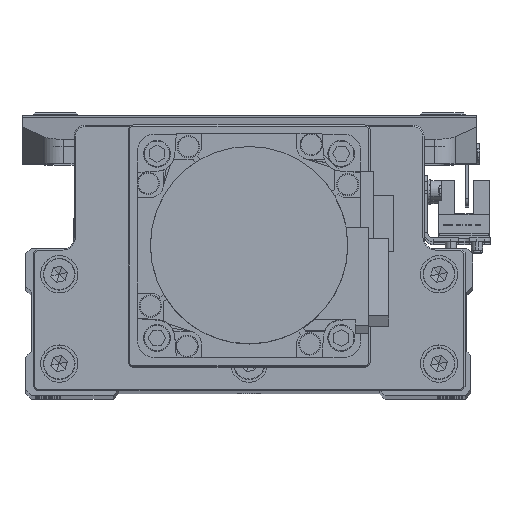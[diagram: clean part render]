
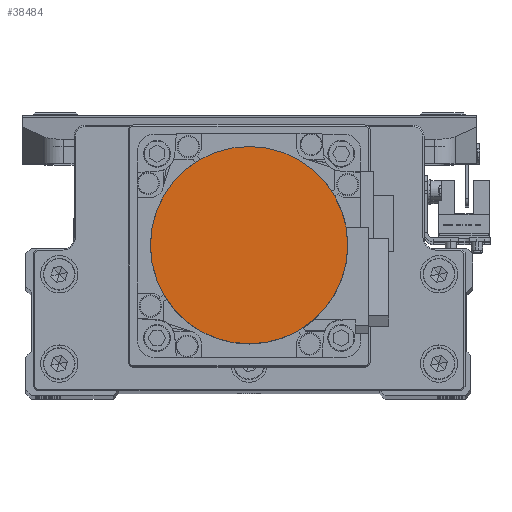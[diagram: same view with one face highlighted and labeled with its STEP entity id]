
A CAD part, top view. The second image highlights one B-rep face of the part: STEP entity #38484.
In plain terms, the highlighted planar face has unit normal (0, 0, 1) as drawn and (0, 0, -1) by its records, which use the part's own axes.
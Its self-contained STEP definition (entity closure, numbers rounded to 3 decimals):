
#258 = CARTESIAN_POINT ( 'NONE',  ( 26.5, 0., -109.7 ) ) ;
#676 = CIRCLE ( 'NONE', #24937, 26.5 ) ;
#4851 = CARTESIAN_POINT ( 'NONE',  ( 0., 0., -109.7 ) ) ;
#5887 = ORIENTED_EDGE ( 'NONE', *, *, #27275, .F. ) ;
#6034 = DIRECTION ( 'NONE',  ( 0., 0., 1. ) ) ;
#11506 = ORIENTED_EDGE ( 'NONE', *, *, #25188, .F. ) ;
#15040 = CIRCLE ( 'NONE', #39314, 26.5 ) ;
#15222 = CARTESIAN_POINT ( 'NONE',  ( 0., 0., -109.7 ) ) ;
#15925 = AXIS2_PLACEMENT_3D ( 'NONE', #4851, #18082, #31302 ) ;
#18082 = DIRECTION ( 'NONE',  ( 0., 0., 1. ) ) ;
#19261 = DIRECTION ( 'NONE',  ( 1., 0., 0. ) ) ;
#21325 = FACE_OUTER_BOUND ( 'NONE', #40773, .T. ) ;
#22054 = VERTEX_POINT ( 'NONE', #40889 ) ;
#24937 = AXIS2_PLACEMENT_3D ( 'NONE', #35751, #6034, #19261 ) ;
#25188 = EDGE_CURVE ( 'NONE', #22054, #35954, #15040, .T. ) ;
#27275 = EDGE_CURVE ( 'NONE', #35954, #22054, #676, .T. ) ;
#28451 = DIRECTION ( 'NONE',  ( 0., 0., 1. ) ) ;
#31302 = DIRECTION ( 'NONE',  ( 1., 0., 0. ) ) ;
#34544 = PLANE ( 'NONE',  #15925 ) ;
#35751 = CARTESIAN_POINT ( 'NONE',  ( 0., 0., -109.7 ) ) ;
#35954 = VERTEX_POINT ( 'NONE', #258 ) ;
#38484 = ADVANCED_FACE ( 'NONE', ( #21325 ), #34544, .F. ) ;
#39314 = AXIS2_PLACEMENT_3D ( 'NONE', #15222, #28451, #41730 ) ;
#40773 = EDGE_LOOP ( 'NONE', ( #11506, #5887 ) ) ;
#40889 = CARTESIAN_POINT ( 'NONE',  ( -26.5, 0., -109.7 ) ) ;
#41730 = DIRECTION ( 'NONE',  ( -1., 0., 0. ) ) ;
